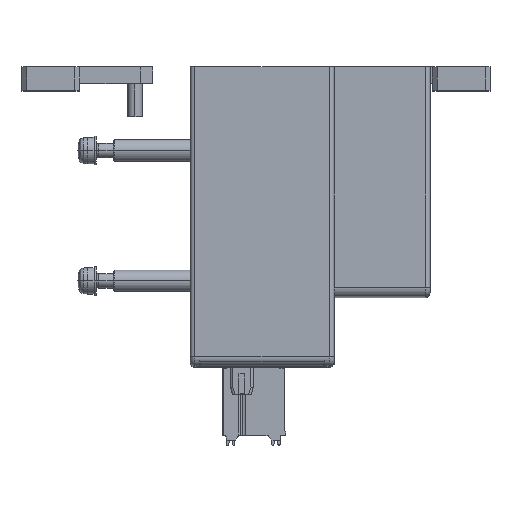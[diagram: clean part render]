
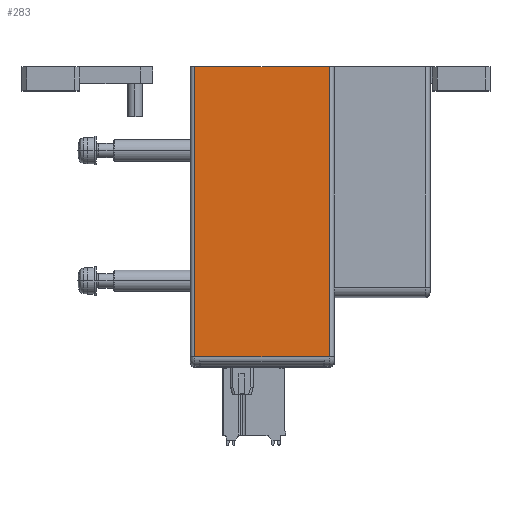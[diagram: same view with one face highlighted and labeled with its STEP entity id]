
A CAD part, top view. The second image highlights one B-rep face of the part: STEP entity #283.
In plain terms, the highlighted planar face has unit normal (0, 0, 1).
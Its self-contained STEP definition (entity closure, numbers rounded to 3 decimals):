
#283=ADVANCED_FACE('',(#2538),#2537,.F.);
#2537=PLANE('',#9588);
#2538=FACE_OUTER_BOUND('',#9589,.T.);
#9585=CARTESIAN_POINT('',(31.8,-72.15,62.2));
#9586=DIRECTION('',(0.,0.,-1.));
#9587=DIRECTION('',(-1.,0.,0.));
#9588=AXIS2_PLACEMENT_3D('',#9585,#9586,#9587);
#9589=EDGE_LOOP('',(#14273,#14274,#14275,#14276));
#14273=ORIENTED_EDGE('',*,*,#17909,.T.);
#14274=ORIENTED_EDGE('',*,*,#17907,.F.);
#14275=ORIENTED_EDGE('',*,*,#17823,.T.);
#14276=ORIENTED_EDGE('',*,*,#17848,.T.);
#17823=EDGE_CURVE('',#22072,#22091,#22099,.T.);
#17848=EDGE_CURVE('',#22091,#22254,#22261,.T.);
#17907=EDGE_CURVE('',#22072,#22656,#22657,.T.);
#17909=EDGE_CURVE('',#22254,#22656,#22669,.T.);
#22072=VERTEX_POINT('',#34144);
#22091=VERTEX_POINT('',#34157);
#22099=LINE('',#34163,#34164);
#22254=VERTEX_POINT('',#34259);
#22261=LINE('',#34264,#34265);
#22656=VERTEX_POINT('',#34488);
#22657=LINE('',#34489,#34490);
#22669=LINE('',#34496,#34497);
#34144=CARTESIAN_POINT('',(29.,-66.1,62.2));
#34157=CARTESIAN_POINT('',(29.,-5.6,62.2));
#34163=CARTESIAN_POINT('',(29.,-66.1,62.2));
#34164=VECTOR('',#34165,60.5);
#34165=DIRECTION('',(0.,1.,0.));
#34259=CARTESIAN_POINT('',(1.,-5.6,62.2));
#34264=CARTESIAN_POINT('',(29.,-5.6,62.2));
#34265=VECTOR('',#34266,28.);
#34266=DIRECTION('',(-1.,0.,0.));
#34488=CARTESIAN_POINT('',(1.,-66.1,62.2));
#34489=CARTESIAN_POINT('',(29.,-66.1,62.2));
#34490=VECTOR('',#34491,28.);
#34491=DIRECTION('',(-1.,0.,0.));
#34496=CARTESIAN_POINT('',(1.,-5.6,62.2));
#34497=VECTOR('',#34498,60.5);
#34498=DIRECTION('',(0.,-1.,0.));
